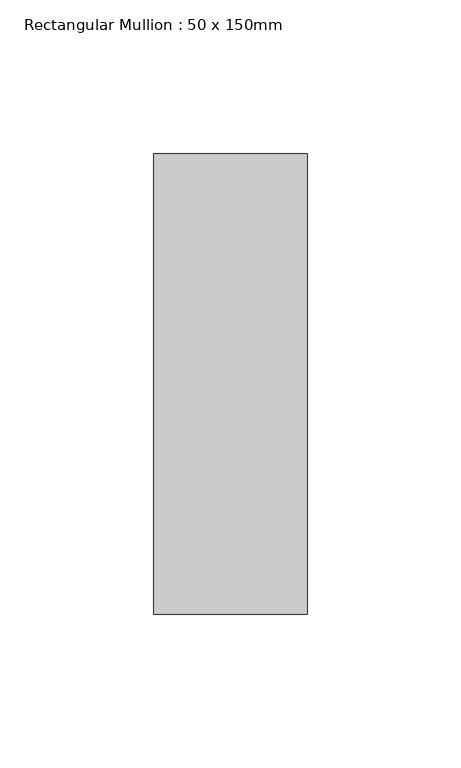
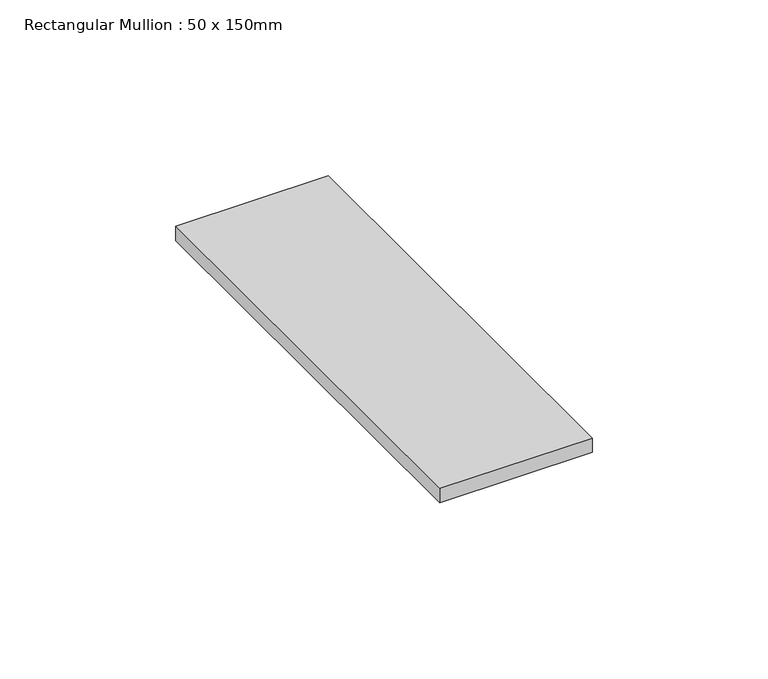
"""IFC4 building model written with IfcOpenShell, lengths in millimetres: member geometry, Rectangular Mullion : 50 x 150mm."""

from ifc_helpers import new_model, si_unit, frame, origin, place, context, project, spatial, polyline, outline, extrude, source, transform, mapped, element, save


def rectangular_mullion_50_x_150mm_d1ed8723(model_context):
    return source(origin(), model_context, "Body", "SweptSolid", [
        extrude(outline(polyline([(0.0, 75.0), (0.0, -75.0), (-50.0, -75.0), (-50.0, 75.0), (0.0, 75.0)])), frame((0.0, 0.0, -4.9999997), z_axis=(0.0, 0.0, 1.0), x_axis=(1.0, 0.0, 0.0)), (0.0, 0.0, 1.0), 4.9999997),
    ])


if __name__ == "__main__":
    model = new_model("IFC4")
    model_context = context("Model", 3, world=origin())
    ifc_project = project(units=[si_unit("LENGTHUNIT", "METRE", prefix="MILLI")], contexts=[model_context])
    site = spatial("IfcSite", under=ifc_project)
    building = spatial("IfcBuilding", under=site)
    placement = place(None, origin())
    rectangular_mullion_50_x_150mm_shape = rectangular_mullion_50_x_150mm_d1ed8723(model_context)
    element("IfcMember", 1, ObjectType="Rectangular Mullion : 50 x 150mm", at=placement, inside=building, context=model_context, shape_type="MappedRepresentation", body=[
        mapped(rectangular_mullion_50_x_150mm_shape, transform((0.0, 0.0, 0.0), x_axis=(1.0, 0.0, 0.0), y_axis=(0.0, 1.0, 0.0), z_axis=(0.0, 0.0, 1.0))),
    ])
    save(model, "model.ifc")
